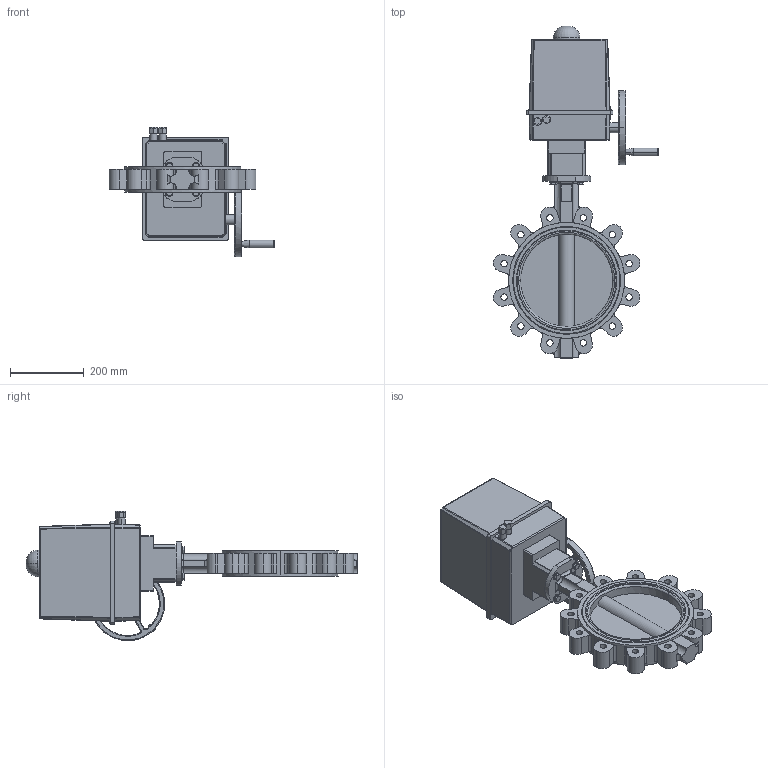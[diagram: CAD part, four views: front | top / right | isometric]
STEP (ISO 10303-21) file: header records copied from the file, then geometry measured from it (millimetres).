
FILE_DESCRIPTION (( 'STEP AP214' ), '1' );
FILE_NAME ('67668.step', '2020-10-26T06:44:50', ( '' ), ( '' ), 'SwSTEP 2.0', 'SolidWorks 2019', '' );
FILE_SCHEMA (( 'AUTOMOTIVE_DESIGN' ));
Length unit declared in the file: millimetre
Products named in the file (6): TL20-0250_M01; 67668; Steckkupplung PSQ 503-1503_PSQ 503-1503 VK-22; 6kt-Schr DIN 933_M10x30; U-Scheibe DIN 125 A_M10; PSQ 503_PSQ 503-43-24VDC-F10
Assembly tree (11 placements, depth 2):
  67668
    TL20-0250_M01
    PSQ 503_PSQ 503-43-24VDC-F10
    Steckkupplung PSQ 503-1503_PSQ 503-1503 VK-22
    6kt-Schr DIN 933_M10x30  x4
    U-Scheibe DIN 125 A_M10  x4
Bounding box: 447.32 x 898.5 x 350 mm (x, y, z)
Volume: 21196085.4 mm3; surface area: 995539.3 mm2
Topology: 11 solids, 11 shells, 883 faces, 2269 edges, 1420 vertices
Faces by surface type: cylinder 392, plane 357, torus 61, cone 53, sphere 16, bspline 4
Entity records: 28434 total; most frequent: CARTESIAN_POINT 5554, DIRECTION 4354, ORIENTED_EDGE 4074, EDGE_CURVE 2037, AXIS2_PLACEMENT_3D 1642, VERTEX_POINT 1300, LINE 1070, VECTOR 1070
